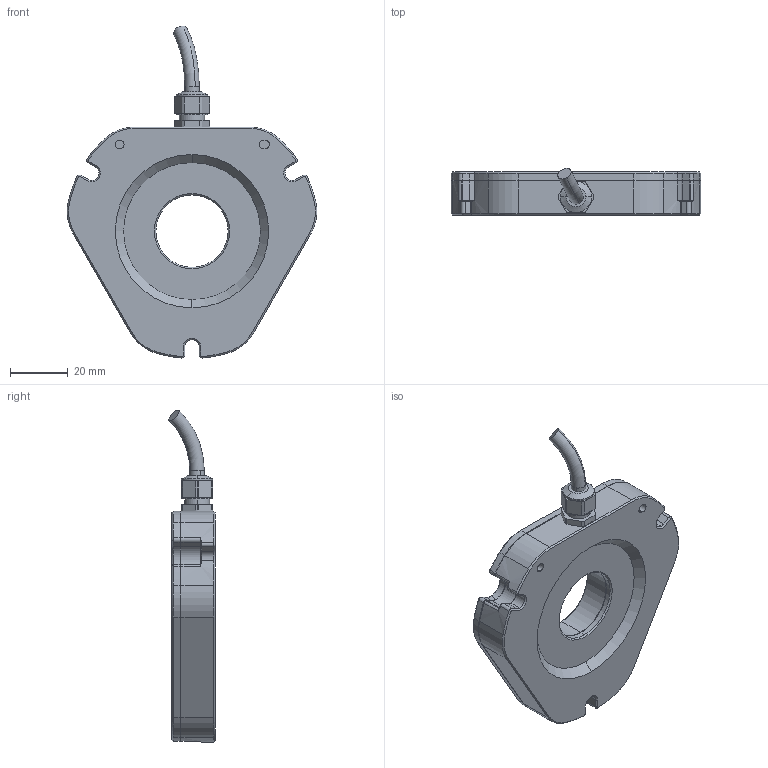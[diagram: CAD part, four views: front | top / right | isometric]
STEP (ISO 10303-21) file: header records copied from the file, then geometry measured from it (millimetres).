
FILE_DESCRIPTION (( 'STEP AP214' ), '1' );
FILE_NAME ('ORBIS_BR30_cable_gland.STEP', '2024-08-29T13:59:56', ( '' ), ( '' ), 'SwSTEP 2.0', 'SolidWorks 2022', '' );
FILE_SCHEMA (( 'AUTOMOTIVE_DESIGN' ));
Length unit declared in the file: millimetre
Products named in the file (1): ORBIS_BR30_cable_gland
Bounding box: 86.31 x 16.11 x 114.79 mm (x, y, z)
Volume: 66169.7 mm3; surface area: 17678 mm2
Topology: 9 solids, 9 shells, 1147 faces, 2836 edges, 1755 vertices
Faces by surface type: plane 398, cylinder 290, bspline 222, cone 209, torus 28
Entity records: 52506 total; most frequent: CARTESIAN_POINT 13548, ORIENTED_EDGE 5624, DIRECTION 5169, EDGE_CURVE 2812, AXIS2_PLACEMENT_3D 1882, VERTEX_POINT 1755, LINE 1405, VECTOR 1405
